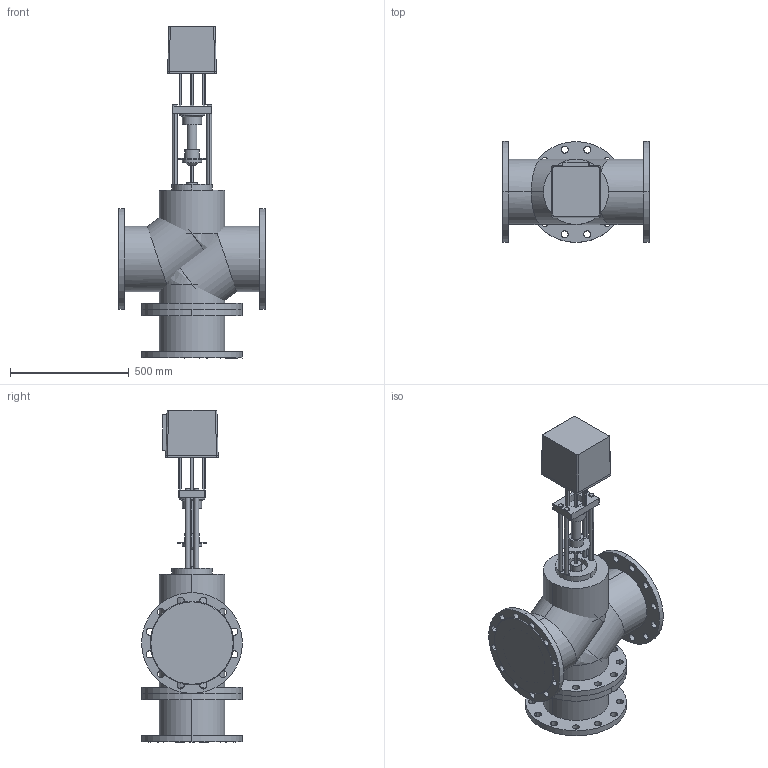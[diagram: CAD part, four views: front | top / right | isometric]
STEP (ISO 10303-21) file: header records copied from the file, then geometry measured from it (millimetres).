
FILE_DESCRIPTION(/* description */ (''),/* implementation_level */ '2;1');
FILE_NAME(/* name */ 'ТРК DN250 PN 2.5 МПа LEA 26000',/* time_stamp */ '2026-07-14T23:08:06+03:00',/* author */ (''),/* organization */ (''),/* preprocessor_version */ 'ST-DEVELOPER v20',/* originating_system */ '',/* authorisation */ '');
FILE_SCHEMA (('AP242_MANAGED_MODEL_BASED_3D_ENGINEERING_MIM_LF { 1 0 10303 442 1 1 4 }'));
Length unit declared in the file: millimetre
Products named in the file (16): TopLevelAssembly; Выдавливание; Модификатор; Модификатор_1; Выдавливание_
1; Выдавливание_
2; Вращение; Выдавливание_
3; Выдавливание_
4; Выдавливание_
5; Выдавливание_
6; Выдавливание_
7; 1600; Переход; Объемная геометрия 
присоединена; Объемная геометрия 
присоединена_1
Assembly tree (15 placements, depth 2):
  TopLevelAssembly
    Выдавливание
    Модификатор
    Модификатор_1
    Выдавливание_
1
    Выдавливание_
2
    Вращение
    Выдавливание_
3
    Выдавливание_
4
    Выдавливание_
5
    Выдавливание_
6
    Выдавливание_
7
    1600
    Переход
    Объемная геометрия 
присоединена
    Объемная геометрия 
присоединена_1
Bounding box: 622 x 425 x 1399 mm (x, y, z)
Volume: 106142204 mm3; surface area: 4178884 mm2
Topology: 24 solids, 24 shells, 341 faces, 842 edges, 540 vertices
Faces by surface type: cylinder 216, plane 107, bspline 14, cone 4
Entity records: 11371 total; most frequent: DIRECTION 2064, CARTESIAN_POINT 2018, ORIENTED_EDGE 1668, AXIS2_PLACEMENT_3D 872, EDGE_CURVE 834, VERTEX_POINT 540, CIRCLE 502, EDGE_LOOP 472
